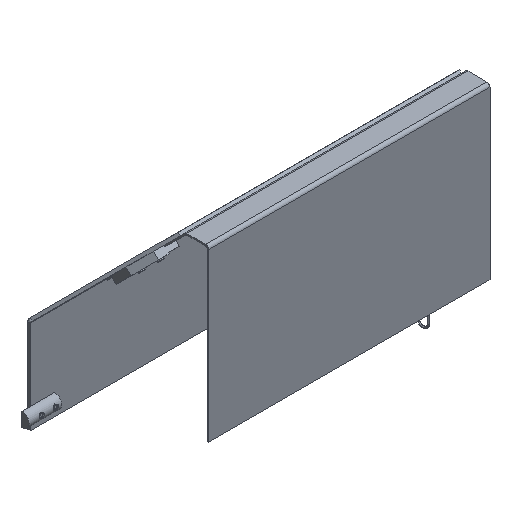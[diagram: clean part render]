
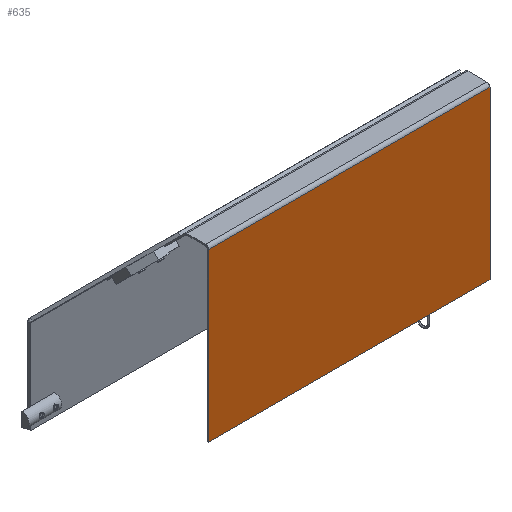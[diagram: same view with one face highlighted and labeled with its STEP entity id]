
A CAD part, isometric view. The second image highlights one B-rep face of the part: STEP entity #635.
In plain terms, the highlighted planar face has unit normal (0, -1, 0).
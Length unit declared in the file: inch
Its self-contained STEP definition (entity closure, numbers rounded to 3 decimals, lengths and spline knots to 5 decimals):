
#202=DIRECTION('',(0.,0.,1.));
#203=VECTOR('',#202,5.8922);
#204=CARTESIAN_POINT('',(4.97,-0.0478,-5.9522));
#205=LINE('',#204,#203);
#218=DIRECTION('',(0.,0.,1.));
#219=VECTOR('',#218,5.8922);
#220=CARTESIAN_POINT('',(-4.97,-0.0478,-5.9522));
#221=LINE('',#220,#219);
#222=DIRECTION('',(-1.,0.,0.));
#223=VECTOR('',#222,9.94);
#224=CARTESIAN_POINT('',(4.97,-0.0478,-5.9522));
#225=LINE('',#224,#223);
#230=DIRECTION('',(-1.,0.,0.));
#231=VECTOR('',#230,9.94);
#232=CARTESIAN_POINT('',(4.97,-0.0478,-0.06));
#233=LINE('',#232,#231);
#262=CARTESIAN_POINT('',(4.97,-0.0478,-5.9522));
#263=CARTESIAN_POINT('',(4.97,-0.0478,-0.06));
#264=VERTEX_POINT('',#262);
#265=VERTEX_POINT('',#263);
#272=CARTESIAN_POINT('',(-4.97,-0.0478,-5.9522));
#273=CARTESIAN_POINT('',(-4.97,-0.0478,-0.06));
#274=VERTEX_POINT('',#272);
#275=VERTEX_POINT('',#273);
#622=CARTESIAN_POINT('',(4.97,-0.0478,-5.9522));
#623=DIRECTION('',(0.,1.,0.));
#624=DIRECTION('',(0.,0.,1.));
#625=AXIS2_PLACEMENT_3D('',#622,#623,#624);
#626=PLANE('',#625);
#627=ORIENTED_EDGE('',*,*,#588,.F.);
#629=ORIENTED_EDGE('',*,*,#628,.T.);
#630=ORIENTED_EDGE('',*,*,#615,.T.);
#632=ORIENTED_EDGE('',*,*,#631,.F.);
#633=EDGE_LOOP('',(#627,#629,#630,#632));
#634=FACE_OUTER_BOUND('',#633,.F.);
#588=EDGE_CURVE('',#264,#265,#205,.T.);
#615=EDGE_CURVE('',#274,#275,#221,.T.);
#628=EDGE_CURVE('',#264,#274,#225,.T.);
#631=EDGE_CURVE('',#265,#275,#233,.T.);
#635=ADVANCED_FACE('',(#634),#626,.F.);
